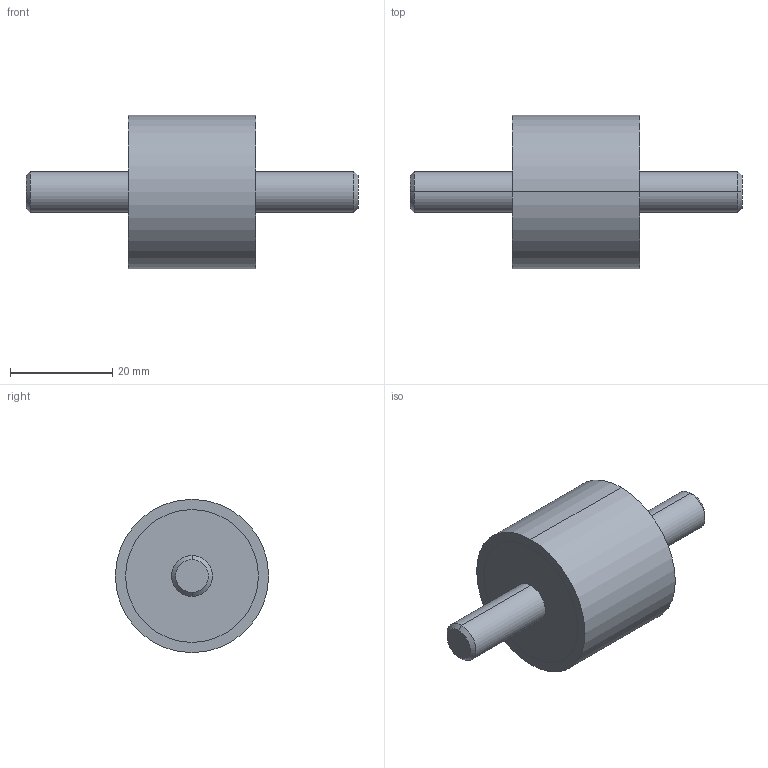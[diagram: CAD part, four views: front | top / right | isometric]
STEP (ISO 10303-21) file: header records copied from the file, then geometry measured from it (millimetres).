
FILE_DESCRIPTION (( 'STEP AP214' ), '1' );
FILE_NAME ('351-30-25-M8-SS-70.step', '2025-07-23T09:45:24', ( '' ), ( '' ), 'SwSTEP 2.0', 'SolidWorks 2022', '' );
FILE_SCHEMA (( 'AUTOMOTIVE_DESIGN' ));
Length unit declared in the file: millimetre
Products named in the file (1): 351-30-25-M8-SS-70
Bounding box: 65 x 30 x 30 mm (x, y, z)
Volume: 19657.5 mm3; surface area: 4752.1 mm2
Topology: 1 solids, 1 shells, 20 faces, 38 edges, 24 vertices
Faces by surface type: cylinder 10, plane 6, cone 4
Entity records: 636 total; most frequent: DIRECTION 104, CARTESIAN_POINT 83, ORIENTED_EDGE 76, AXIS2_PLACEMENT_3D 45, EDGE_CURVE 38, EDGE_LOOP 24, CIRCLE 24, VERTEX_POINT 24
